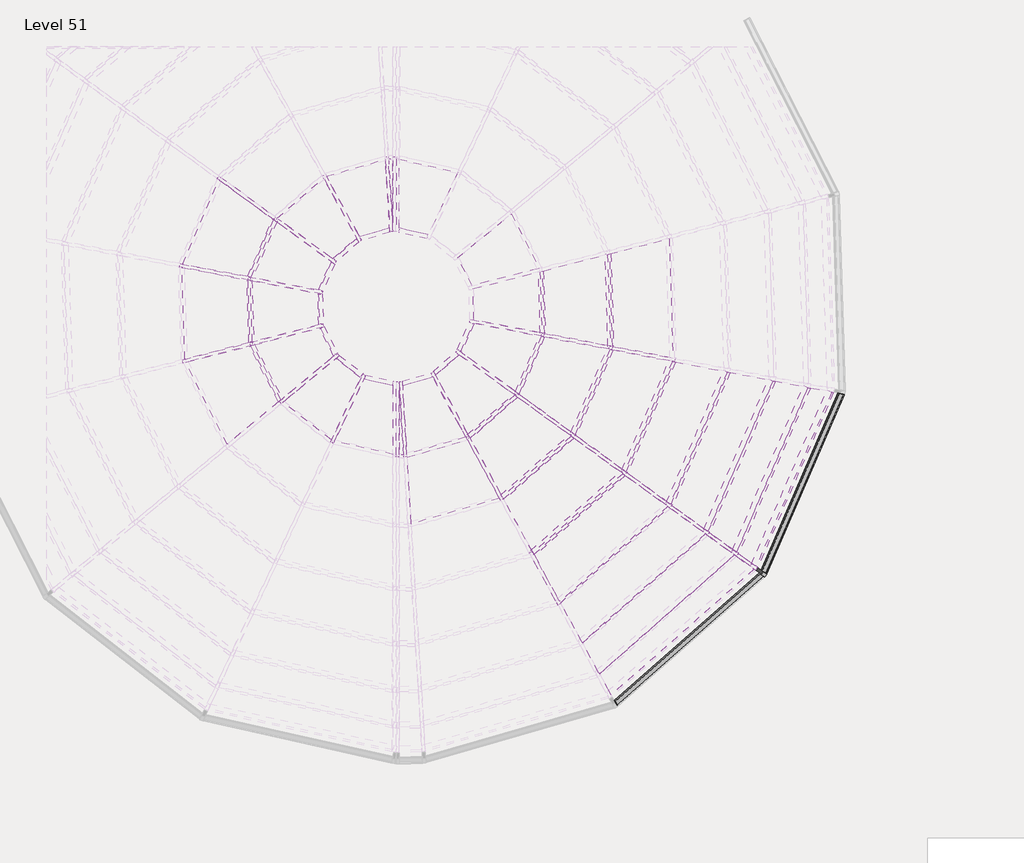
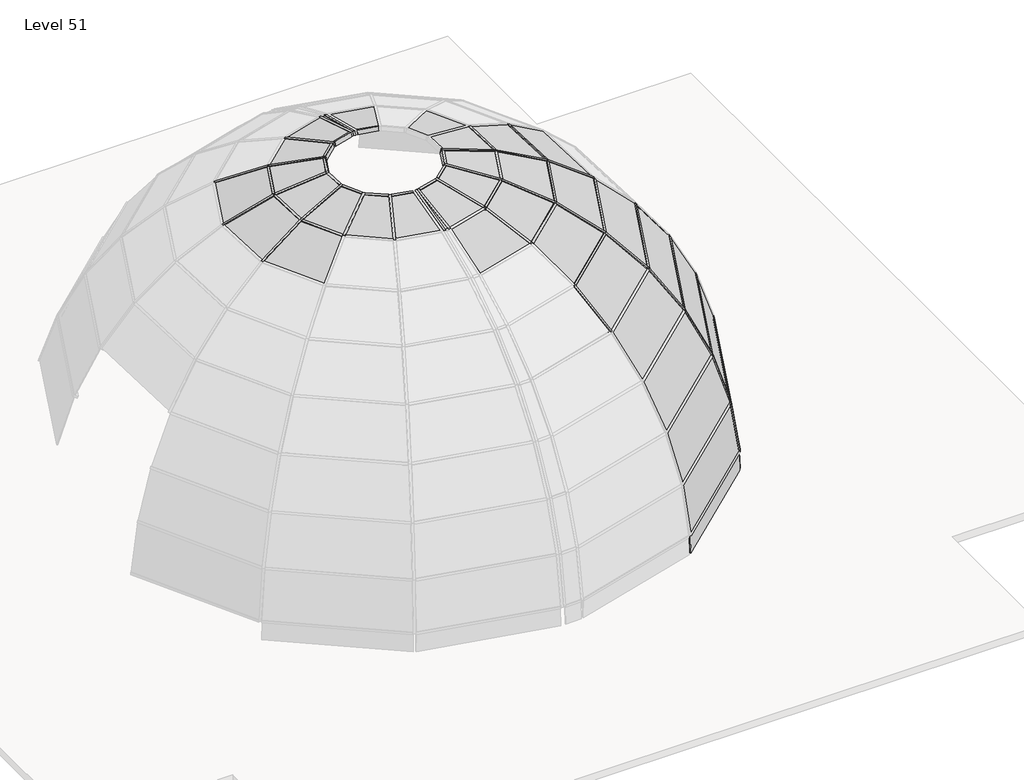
# One storey, part 3 of 5: 54 members, 37 plates.
"""IFC4 building model written with IfcOpenShell, lengths in millimetres."""

from ifc_helpers import new_model, si_unit, origin, place, context, project, spatial, transform, mapped, element, save
from components import member_1612663b, member_5eaec6db, member_d183bd50, member_bab2e2f0, member_4ad3c4be, member_d9f9b3f1, member_ae036e1e, member_bd7755a3, member_d21742c5, member_8f2bf440, member_043ce83e, member_92905304, member_01029f2d, member_8adeae2d, system_panel_glazed_a28302a5, system_panel_glazed_481fb3e2, system_panel_glazed_05ceb18a, system_panel_glazed_08e752b3, system_panel_glazed_7ce28d7e, system_panel_glazed_bc7ae3a6, system_panel_glazed_73e2dce4, system_panel_glazed_cf9631f2, system_panel_glazed_7f2b973a, system_panel_glazed_a149731e, system_panel_glazed_0cc4b934

model = new_model("IFC4")

# Units and contexts
model_context = context("Model", 3, world=origin())
ifc_project = project(units=[si_unit("LENGTHUNIT", "METRE", prefix="MILLI")], contexts=[model_context])

# Site, building, storey
site = spatial("IfcSite", under=ifc_project)
building = spatial("IfcBuilding", under=site)
storey = spatial("IfcBuildingStorey", under=building, Name="Level 51", Elevation=152400.0)

# Members
placement = place(None, origin())
member_shape = member_1612663b(model_context)
element("IfcMember", 1, ObjectType="Rectangular Mullion : 2.5\" x 5\" rectangular", at=placement, inside=storey, context=model_context, shape_type="MappedRepresentation", body=[
    mapped(member_shape, transform((611.2637185, -6933.1447382, 161037.7653816), x_axis=(-0.2482453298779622, 0.9686971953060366, 0.0), y_axis=(-0.39299494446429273, -0.10071171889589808, 0.9140088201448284), z_axis=(0.8853977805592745, 0.2268984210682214, 0.40569431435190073))),
])
element("IfcMember", 2, ObjectType="Rectangular Mullion : 2.5\" x 5\" rectangular", at=placement, inside=storey, context=model_context, shape_type="MappedRepresentation", body=[
    mapped(member_shape, transform((570.8341791, -5624.3347489, 161037.7653816), x_axis=(0.18798237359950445, 0.9821724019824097, 0.0), y_axis=(-0.3984617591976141, 0.07626338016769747, 0.9140088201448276), z_axis=(0.897714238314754, -0.17181754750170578, 0.4056943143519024))),
])
element("IfcMember", 3, ObjectType="Rectangular Mullion : 2.5\" x 5\" rectangular", at=placement, inside=storey, context=model_context, shape_type="MappedRepresentation", body=[
    mapped(member_shape, transform((1091.7004255, -4422.9536733, 161037.7653816), x_axis=(0.5884039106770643, 0.808567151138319, 0.0), y_axis=(-0.3280310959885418, 0.2387121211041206, 0.9140088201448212), z_axis=(0.7390375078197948, -0.5378063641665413, 0.4056943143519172))),
])
element("IfcMember", 4, ObjectType="Rectangular Mullion : 2.5\" x 5\" rectangular", at=placement, inside=storey, context=model_context, shape_type="MappedRepresentation", body=[
    mapped(member_shape, transform((6464.4399296, -6752.3383416, 161037.7653816), x_axis=(-0.1879823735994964, -0.9821724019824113, 0.0), y_axis=(0.3984617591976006, -0.07626338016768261, 0.914008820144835), z_axis=(-0.8977142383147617, 0.17181754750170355, 0.4056943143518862))),
])
element("IfcMember", 5, ObjectType="Rectangular Mullion : 2.5\" x 5\" rectangular", at=placement, inside=storey, context=model_context, shape_type="MappedRepresentation", body=[
    mapped(member_shape, transform((7832.5564288, -7014.188284, 160419.4872466), x_axis=(-0.18798237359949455, -0.9821724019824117, 0.0), y_axis=(0.5420261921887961, -0.10374081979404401, 0.8339337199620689), z_axis=(-0.8190666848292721, 0.15676484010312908, 0.5518646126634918))),
])
element("IfcMember", 6, ObjectType="Rectangular Mullion : 2.5\" x 5\" rectangular", at=placement, inside=storey, context=model_context, shape_type="MappedRepresentation", body=[
    mapped(member_shape, transform((5943.5736832, -7953.7194172, 161037.7653816), x_axis=(-0.5884039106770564, -0.8085671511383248, 0.0), y_axis=(0.3280310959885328, -0.23871212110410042, 0.9140088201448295), z_axis=(-0.7390375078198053, 0.5378063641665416, 0.4056943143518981))),
])
element("IfcMember", 7, ObjectType="Rectangular Mullion : 2.5\" x 5\" rectangular", at=placement, inside=storey, context=model_context, shape_type="MappedRepresentation", body=[
    mapped(member_shape, transform((7069.8668451, -8773.3363162, 160419.4872466), x_axis=(-0.588403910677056, -0.808567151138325, 0.0), y_axis=(0.4462195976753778, -0.32471929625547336, 0.8339337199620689), z_axis=(-0.6742914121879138, 0.4906898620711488, 0.5518646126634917))),
])
element("IfcMember", 8, ObjectType="Rectangular Mullion : 2.5\" x 5\" rectangular", at=placement, inside=storey, context=model_context, shape_type="MappedRepresentation", body=[
    mapped(member_shape, transform((8097.4869573, -9521.147666, 159578.4455769), x_axis=(-0.5884039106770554, -0.8085671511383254, 0.0), y_axis=(0.5520131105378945, -0.4017064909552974, 0.7306937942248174), z_axis=(-0.590814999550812, 0.42994308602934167, 0.6827053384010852))),
])
element("IfcMember", 9, ObjectType="Rectangular Mullion : 2.5\" x 5\" rectangular", at=placement, inside=storey, context=model_context, shape_type="MappedRepresentation", body=[
    mapped(member_shape, transform((8997.8890166, -10176.3809291, 158538.0026411), x_axis=(-0.588403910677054, -0.8085671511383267, 0.0), y_axis=(0.6424729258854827, -0.4675351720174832, 0.6071568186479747), z_axis=(-0.49092705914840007, 0.3572534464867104, 0.7945820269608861))),
])
element("IfcMember", 10, ObjectType="Rectangular Mullion : 2.5\" x 5\" rectangular", at=placement, inside=storey, context=model_context, shape_type="MappedRepresentation", body=[
    mapped(member_shape, transform((9746.0618547, -10720.8351816, 157327.0596321), x_axis=(-0.5884039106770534, -0.8085671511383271, 0.0), y_axis=(0.7150862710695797, -0.5203767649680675, 0.4667543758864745), z_axis=(-0.3774022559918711, 0.27464010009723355, 0.8843869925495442))),
])
element("IfcMember", 11, ObjectType="Rectangular Mullion : 2.5\" x 5\" rectangular", at=placement, inside=storey, context=model_context, shape_type="MappedRepresentation", body=[
    mapped(member_shape, transform((10321.2228929, -11139.3866941, 155979.2538554), x_axis=(-0.5884039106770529, -0.8085671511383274, 0.0), y_axis=(0.7678361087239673, -0.5587634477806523, 0.3133865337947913), z_axis=(-0.2533940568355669, 0.18439786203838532, 0.9496256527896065))),
])
element("IfcMember", 12, ObjectType="Rectangular Mullion : 2.5\" x 5\" rectangular", at=placement, inside=storey, context=model_context, shape_type="MappedRepresentation", body=[
    mapped(member_shape, transform((4960.6242694, -8818.8370887, 161037.7653816), x_axis=(-0.8767485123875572, -0.4809491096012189, 0.0), y_axis=(0.19511831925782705, -0.35569188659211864, 0.9140088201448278), z_axis=(-0.43959172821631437, 0.8013558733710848, 0.40569431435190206))),
])
element("IfcMember", 13, ObjectType="Rectangular Mullion : 2.5\" x 5\" rectangular", at=placement, inside=storey, context=model_context, shape_type="MappedRepresentation", body=[
    mapped(member_shape, transform((6241.8074956, -11154.3762659, 159578.4455769), x_axis=(-0.8767485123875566, -0.48094910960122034, 0.0), y_axis=(0.32834652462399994, -0.5985608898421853, 0.7306937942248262), z_axis=(-0.3514265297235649, 0.640634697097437, 0.6827053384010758))),
])
member_2_shape = member_5eaec6db(model_context)
element("IfcMember", 14, ObjectType="Rectangular Mullion : 2.5\" x 5\" rectangular", at=placement, inside=storey, context=model_context, shape_type="MappedRepresentation", body=[
    mapped(member_2_shape, transform((10707.3954355, -11420.4090359, 154532.0243606), x_axis=(-0.5884039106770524, -0.8085671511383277, 0.0), y_axis=(0.7992571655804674, -0.5816289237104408, 0.15131351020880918), z_axis=(-0.12234713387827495, 0.08903346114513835, 0.9884858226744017))),
])
member_3_shape = member_d183bd50(model_context)
element("IfcMember", 15, ObjectType="Rectangular Mullion : 2.5\" x 5\" rectangular", at=placement, inside=storey, context=model_context, shape_type="MappedRepresentation", body=[
    mapped(member_3_shape, transform((10906.4819699, -11526.9660089, 153025.5719668), x_axis=(0.06431051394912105, -0.027882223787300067, -0.9975403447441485), y_axis=(0.9152243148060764, -0.39680120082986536, 0.07009465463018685), z_axis=(-0.39777960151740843, -0.9174810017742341, 0.0))),
])
member_4_shape = member_bab2e2f0(model_context)
element("IfcMember", 16, ObjectType="Rectangular Mullion : 2.5\" x 5\" rectangular", at=placement, inside=storey, context=model_context, shape_type="MappedRepresentation", body=[
    mapped(member_4_shape, transform((10720.0249378, -11391.2790141, 154532.0243606), x_axis=(0.2189062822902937, -0.09490818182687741, -0.971119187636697), y_axis=(0.8909834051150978, -0.38629140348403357, 0.238594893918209), z_axis=(-0.39777960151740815, -0.917481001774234, 0.0))),
])
member_5_shape = member_4ad3c4be(model_context)
element("IfcMember", 17, ObjectType="Rectangular Mullion : 2.5\" x 5\" rectangular", at=placement, inside=storey, context=model_context, shape_type="MappedRepresentation", body=[
    mapped(member_5_shape, transform((9758.6913571, -10691.7051598, 157327.0596321), x_axis=(0.5029371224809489, -0.21805152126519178, -0.8363658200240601), y_axis=(0.7673497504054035, -0.33268926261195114, 0.5481717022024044), z_axis=(-0.3977796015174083, -0.917481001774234, 0.0))),
])
member_6_shape = member_d9f9b3f1(model_context)
element("IfcMember", 18, ObjectType="Rectangular Mullion : 2.5\" x 5\" rectangular", at=placement, inside=storey, context=model_context, shape_type="MappedRepresentation", body=[
    mapped(member_6_shape, transform((10333.8523952, -11110.2566723, 155979.2538554), x_axis=(0.3665985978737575, -0.15894110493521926, -0.9167023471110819), y_axis=(0.8410569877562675, -0.36464549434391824, 0.39957077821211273), z_axis=(-0.39777960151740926, -0.9174810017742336, 0.0))),
])
member_7_shape = member_ae036e1e(model_context)
element("IfcMember", 19, ObjectType="Rectangular Mullion : 2.5\" x 5\" rectangular", at=placement, inside=storey, context=model_context, shape_type="MappedRepresentation", body=[
    mapped(member_7_shape, transform((2843.4555089, -7547.7281328, 161416.1055894), x_axis=(0.59298255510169, 0.7641063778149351, 0.2539943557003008), y_axis=(-0.15572098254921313, -0.20065918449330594, 0.9672057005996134), z_axis=(0.7900143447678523, -0.6130883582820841, 0.0))),
])
element("IfcMember", 20, ObjectType="Rectangular Mullion : 2.5\" x 5\" rectangular", at=placement, inside=storey, context=model_context, shape_type="MappedRepresentation", body=[
    mapped(member_7_shape, transform((2328.6743232, -7131.1164073, 161416.1055894), x_axis=(0.8619544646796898, 0.43877256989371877, 0.253994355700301), y_axis=(-0.22635471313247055, -0.11522446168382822, 0.9672057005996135), z_axis=(0.4536496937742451, -0.8911800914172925, 0.0))),
])
element("IfcMember", 21, ObjectType="Rectangular Mullion : 2.5\" x 5\" rectangular", at=placement, inside=storey, context=model_context, shape_type="MappedRepresentation", body=[
    mapped(member_7_shape, transform((2040.3622291, -6534.9275653, 161416.1055894), x_axis=(0.9667445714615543, 0.02986303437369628, 0.2539943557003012), y_axis=(-0.2538732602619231, -0.007842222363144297, 0.9672057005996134), z_axis=(0.030875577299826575, -0.9995232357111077, 0.0))),
])
element("IfcMember", 22, ObjectType="Rectangular Mullion : 2.5\" x 5\" rectangular", at=placement, inside=storey, context=model_context, shape_type="MappedRepresentation", body=[
    mapped(member_7_shape, transform((2033.4358161, -5872.7213861, 161416.1055894), x_axis=(0.8873928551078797, -0.38473469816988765, 0.25399435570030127), y_axis=(-0.23303499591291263, 0.10103377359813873, 0.9672057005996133), z_axis=(-0.39777960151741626, -0.9174810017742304, 0.0))),
])
element("IfcMember", 23, ObjectType="Rectangular Mullion : 2.5\" x 5\" rectangular", at=placement, inside=storey, context=model_context, shape_type="MappedRepresentation", body=[
    mapped(member_7_shape, transform((2309.2144008, -5270.6323801, 161416.1055894), x_axis=(0.6390139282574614, -0.7260496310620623, 0.2539943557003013), y_axis=(-0.16780911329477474, 0.19066524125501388, 0.9672057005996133), z_axis=(-0.7506672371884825, -0.6606804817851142, 0.0))),
])
element("IfcMember", 24, ObjectType="Rectangular Mullion : 2.5\" x 5\" rectangular", at=placement, inside=storey, context=model_context, shape_type="MappedRepresentation", body=[
    mapped(member_7_shape, transform((2815.1687291, -4843.3441675, 161416.1055894), x_axis=(0.2689180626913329, -0.9290693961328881, 0.25399435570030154), y_axis=(-0.07061959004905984, 0.2439795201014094, 0.9672057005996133), z_axis=(-0.9605706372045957, -0.2780360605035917, 0.0))),
])
element("IfcMember", 25, ObjectType="Rectangular Mullion : 2.5\" x 5\" rectangular", at=placement, inside=storey, context=model_context, shape_type="MappedRepresentation", body=[
    mapped(member_7_shape, transform((5001.8382926, -6503.9517044, 161416.1055894), x_axis=(-0.8873928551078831, 0.3847346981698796, 0.2539943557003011), y_axis=(0.23303499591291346, -0.10103377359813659, 0.9672057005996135), z_axis=(0.397779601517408, 0.9174810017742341, 0.0))),
])
element("IfcMember", 26, ObjectType="Rectangular Mullion : 2.5\" x 5\" rectangular", at=placement, inside=storey, context=model_context, shape_type="MappedRepresentation", body=[
    mapped(member_7_shape, transform((4726.0597079, -7106.0407104, 161416.1055894), x_axis=(-0.6390139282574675, 0.7260496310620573, 0.253994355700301), y_axis=(0.16780911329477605, -0.19066524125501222, 0.9672057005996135), z_axis=(0.7506672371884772, 0.6606804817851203, 0.0))),
])
element("IfcMember", 27, ObjectType="Rectangular Mullion : 2.5\" x 5\" rectangular", at=placement, inside=storey, context=model_context, shape_type="MappedRepresentation", body=[
    mapped(member_7_shape, transform((4220.1053797, -7533.3289231, 161416.1055894), x_axis=(-0.26891806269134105, 0.9290693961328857, 0.2539943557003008), y_axis=(0.07061959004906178, -0.24397952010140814, 0.9672057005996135), z_axis=(0.9605706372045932, 0.2780360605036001, 0.0))),
])
member_8_shape = member_bd7755a3(model_context)
element("IfcMember", 28, ObjectType="Rectangular Mullion : 2.5\" x 5\" rectangular", at=placement, inside=storey, context=model_context, shape_type="MappedRepresentation", body=[
    mapped(member_8_shape, transform((8110.1164596, -9492.0176442, 159578.4455769), x_axis=(0.7269350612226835, -0.31516722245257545, -0.6101106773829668), y_axis=(0.5597649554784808, -0.24268958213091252, 0.7923162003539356), z_axis=(-0.3977796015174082, -0.917481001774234, 0.0))),
])
element("IfcMember", 29, ObjectType="Rectangular Mullion : 2.5\" x 5\" rectangular", at=placement, inside=storey, context=model_context, shape_type="MappedRepresentation", body=[
    mapped(member_8_shape, transform((6265.6411804, -11133.3996606, 159578.4455769), x_axis=(0.523467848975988, -0.5947658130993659, -0.6101106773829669), y_axis=(0.40308821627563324, -0.4579900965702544, 0.7923162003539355), z_axis=(-0.7506672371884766, -0.6606804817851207, 0.0))),
])
member_9_shape = member_d21742c5(model_context)
element("IfcMember", 30, ObjectType="Rectangular Mullion : 2.5\" x 5\" rectangular", at=placement, inside=storey, context=model_context, shape_type="MappedRepresentation", body=[
    mapped(member_9_shape, transform((5654.395748, -10019.1268344, 160419.4872466), x_axis=(0.582642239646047, -0.6619999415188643, -0.47147014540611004), y_axis=(0.31149112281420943, -0.35391719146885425, 0.8818820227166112), z_axis=(-0.750667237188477, -0.6606804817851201, 0.0))),
])
element("IfcMember", 31, ObjectType="Rectangular Mullion : 2.5\" x 5\" rectangular", at=placement, inside=storey, context=model_context, shape_type="MappedRepresentation", body=[
    mapped(member_9_shape, transform((7831.5761292, -6982.4534213, 160419.4872466), x_axis=(0.8814615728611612, 0.02722861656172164, -0.47147014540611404), y_axis=(0.47124536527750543, 0.014556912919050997, 0.881882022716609), z_axis=(0.03087557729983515, -0.9995232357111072, 0.0))),
])
element("IfcMember", 32, ObjectType="Rectangular Mullion : 2.5\" x 5\" rectangular", at=placement, inside=storey, context=model_context, shape_type="MappedRepresentation", body=[
    mapped(member_9_shape, transform((7082.4963475, -8744.2062944, 160419.4872466), x_axis=(0.8091100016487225, -0.3507946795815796, -0.4714701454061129), y_axis=(0.43256490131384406, -0.18754120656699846, 0.8818820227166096), z_axis=(-0.397779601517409, -0.9174810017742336, 0.0))),
])
member_10_shape = member_8f2bf440(model_context)
element("IfcMember", 33, ObjectType="Rectangular Mullion : 2.5\" x 5\" rectangular", at=placement, inside=storey, context=model_context, shape_type="MappedRepresentation", body=[
    mapped(member_10_shape, transform((625.6670963, -6961.4397061, 161037.7653816), x_axis=(-0.8440083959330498, -0.4296372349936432, -0.32103220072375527), y_axis=(-0.28609750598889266, -0.1456361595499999, 0.9470682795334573), z_axis=(-0.4536496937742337, 0.8911800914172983, 0.0))),
])
element("IfcMember", 34, ObjectType="Rectangular Mullion : 2.5\" x 5\" rectangular", at=placement, inside=storey, context=model_context, shape_type="MappedRepresentation", body=[
    mapped(member_10_shape, transform((1079.0709232, -4452.0836951, 161037.7653816), x_axis=(-0.8689171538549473, 0.3767244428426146, -0.3210322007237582), y_axis=(-0.2945409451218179, 0.1277000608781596, 0.9470682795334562), z_axis=(0.39777960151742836, 0.9174810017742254, 0.0))),
])
element("IfcMember", 35, ObjectType="Rectangular Mullion : 2.5\" x 5\" rectangular", at=placement, inside=storey, context=model_context, shape_type="MappedRepresentation", body=[
    mapped(member_10_shape, transform((571.8144787, -5656.0696117, 161037.7653816), x_axis=(-0.9466167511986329, -0.029241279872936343, -0.32103220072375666), y_axis=(-0.32087914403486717, -0.009912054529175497, 0.9470682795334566), z_axis=(-0.030875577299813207, 0.9995232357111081, 0.0))),
])
element("IfcMember", 36, ObjectType="Rectangular Mullion : 2.5\" x 5\" rectangular", at=placement, inside=storey, context=model_context, shape_type="MappedRepresentation", body=[
    mapped(member_10_shape, transform((6463.45963, -6720.6034789, 161037.7653816), x_axis=(0.946616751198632, 0.02924127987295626, -0.3210322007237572), y_axis=(0.32087914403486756, 0.009912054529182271, 0.9470682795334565), z_axis=(0.03087557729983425, -0.9995232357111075, 0.0))),
])
element("IfcMember", 37, ObjectType="Rectangular Mullion : 2.5\" x 5\" rectangular", at=placement, inside=storey, context=model_context, shape_type="MappedRepresentation", body=[
    mapped(member_10_shape, transform((5956.2031855, -7924.5893954, 161037.7653816), x_axis=(0.868917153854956, -0.3767244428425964, -0.3210322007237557), y_axis=(0.29454094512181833, -0.12770006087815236, 0.9470682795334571), z_axis=(-0.39777960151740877, -0.9174810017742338, 0.0))),
])
element("IfcMember", 38, ObjectType="Rectangular Mullion : 2.5\" x 5\" rectangular", at=placement, inside=storey, context=model_context, shape_type="MappedRepresentation", body=[
    mapped(member_10_shape, transform((4984.4579542, -8797.8604834, 161037.7653816), x_axis=(0.6257095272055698, -0.7109331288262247, -0.3210322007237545), y_axis=(0.21209970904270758, -0.24098835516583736, 0.9470682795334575), z_axis=(-0.7506672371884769, -0.6606804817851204, 0.0))),
])
member_11_shape = member_043ce83e(model_context)
element("IfcMember", 39, ObjectType="Rectangular Mullion : 2.5\" x 5\" rectangular", at=placement, inside=storey, context=model_context, shape_type="MappedRepresentation", body=[
    mapped(member_11_shape, transform((2784.6706113, -4852.1718124, 161416.1055894), x_axis=(0.8767485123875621, 0.4809491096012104, 0.0), y_axis=(-0.11939789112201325, 0.21765696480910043, 0.9686947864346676), z_axis=(0.4658928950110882, -0.8493017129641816, 0.24825472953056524))),
])
element("IfcMember", 40, ObjectType="Rectangular Mullion : 2.5\" x 5\" rectangular", at=placement, inside=storey, context=model_context, shape_type="MappedRepresentation", body=[
    mapped(member_11_shape, transform((3423.5731625, -4667.2422076, 161416.1055894), x_axis=(0.9980933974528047, 0.06172171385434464, 0.0), y_axis=(-0.015322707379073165, 0.24778140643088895, 0.9686947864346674), z_axis=(0.05978950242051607, -0.9668478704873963, 0.2482547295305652))),
])
element("IfcMember", 41, ObjectType="Rectangular Mullion : 2.5\" x 5\" rectangular", at=placement, inside=storey, context=model_context, shape_type="MappedRepresentation", body=[
    mapped(member_11_shape, transform((2868.5384643, -7567.1936881, 161416.1055894), x_axis=(-0.9047619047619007, 0.42591770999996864, 0.0), y_axis=(-0.105736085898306, -0.2246114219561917, 0.9686947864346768), z_axis=(0.4125842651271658, 0.8764381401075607, 0.2482547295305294))),
])
element("IfcMember", 42, ObjectType="Rectangular Mullion : 2.5\" x 5\" rectangular", at=placement, inside=storey, context=model_context, shape_type="MappedRepresentation", body=[
    mapped(member_11_shape, transform((2343.077701, -7159.4113752, 161416.1055894), x_axis=(-0.637188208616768, 0.7707082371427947, 0.0), y_axis=(-0.1913319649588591, -0.15818498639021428, 0.9686947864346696), z_axis=(0.7465810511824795, 0.6172408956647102, 0.24825472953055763))),
])
element("IfcMember", 43, ObjectType="Rectangular Mullion : 2.5\" x 5\" rectangular", at=placement, inside=storey, context=model_context, shape_type="MappedRepresentation", body=[
    mapped(member_11_shape, transform((2041.3425287, -6566.662428, 161416.1055894), x_axis=(-0.24824532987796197, 0.9686971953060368, 0.0), y_axis=(-0.24048366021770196, -0.06162807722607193, 0.9686947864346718), z_axis=(0.9383719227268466, 0.24047395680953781, 0.2482547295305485))),
])
element("IfcMember", 44, ObjectType="Rectangular Mullion : 2.5\" x 5\" rectangular", at=placement, inside=storey, context=model_context, shape_type="MappedRepresentation", body=[
    mapped(member_11_shape, transform((2020.8063137, -5901.8514079, 161416.1055894), x_axis=(0.18798237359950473, 0.9821724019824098, 0.0), y_axis=(-0.24382894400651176, 0.046667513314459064, 0.9686947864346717), z_axis=(0.951425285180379, -0.182097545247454, 0.24825472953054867))),
])
element("IfcMember", 45, ObjectType="Rectangular Mullion : 2.5\" x 5\" rectangular", at=placement, inside=storey, context=model_context, shape_type="MappedRepresentation", body=[
    mapped(member_11_shape, transform((2285.380716, -5291.6089854, 161416.1055894), x_axis=(0.5884039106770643, 0.808567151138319, 0.0), y_axis=(-0.2007306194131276, 0.14607405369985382, 0.9686947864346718), z_axis=(0.7832547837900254, -0.5699838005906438, 0.24825472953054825))),
])
element("IfcMember", 46, ObjectType="Rectangular Mullion : 2.5\" x 5\" rectangular", at=placement, inside=storey, context=model_context, shape_type="MappedRepresentation", body=[
    mapped(member_11_shape, transform((5014.467795, -6474.8216826, 161416.1055894), x_axis=(-0.18798237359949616, -0.9821724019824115, 0.0), y_axis=(0.2438289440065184, -0.04666751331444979, 0.9686947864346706), z_axis=(-0.9514252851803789, 0.1820975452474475, 0.2482547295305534))),
])
element("IfcMember", 47, ObjectType="Rectangular Mullion : 2.5\" x 5\" rectangular", at=placement, inside=storey, context=model_context, shape_type="MappedRepresentation", body=[
    mapped(member_11_shape, transform((4749.8933927, -7085.0641051, 161416.1055894), x_axis=(-0.588403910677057, -0.8085671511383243, 0.0), y_axis=(0.2007306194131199, -0.14607405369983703, 0.968694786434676), z_axis=(-0.7832547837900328, 0.5699838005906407, 0.24825472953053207))),
])
element("IfcMember", 48, ObjectType="Rectangular Mullion : 2.5\" x 5\" rectangular", at=placement, inside=storey, context=model_context, shape_type="MappedRepresentation", body=[
    mapped(member_11_shape, transform((4250.6034974, -7524.5012781, 161416.1055894), x_axis=(-0.876748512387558, -0.48094910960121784, 0.0), y_axis=(0.11939789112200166, -0.21765696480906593, 0.9686947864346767), z_axis=(-0.4658928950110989, 0.8493017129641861, 0.2482547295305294))),
])
element("IfcMember", 49, ObjectType="Rectangular Mullion : 2.5\" x 5\" rectangular", at=placement, inside=storey, context=model_context, shape_type="MappedRepresentation", body=[
    mapped(member_11_shape, transform((3611.7009463, -7709.430883, 161416.1055894), x_axis=(-0.9980933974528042, -0.06172171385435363, 0.0), y_axis=(0.015322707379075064, -0.24778140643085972, 0.9686947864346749), z_axis=(-0.059789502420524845, 0.9668478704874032, 0.24825472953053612))),
])
member_12_shape = member_92905304(model_context)
element("IfcMember", 50, ObjectType="Rectangular Mullion : 2.5\" x 5\" rectangular", at=placement, inside=storey, context=model_context, shape_type="MappedRepresentation", body=[
    mapped(member_12_shape, transform((3455.6673997, -7698.4797092, 161416.1055894), x_axis=(0.21106158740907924, 0.9438961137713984, 0.2539943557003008), y_axis=(-0.05542611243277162, -0.2478731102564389, 0.9672057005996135), z_axis=(0.9759000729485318, -0.21821789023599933, 0.0))),
])
element("IfcMember", 51, ObjectType="Rectangular Mullion : 2.5\" x 5\" rectangular", at=placement, inside=storey, context=model_context, shape_type="MappedRepresentation", body=[
    mapped(member_12_shape, transform((3579.606709, -4678.1933813, 161416.1055894), x_axis=(-0.21106158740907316, -0.9438961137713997, 0.25399435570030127), y_axis=(0.05542611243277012, 0.24787311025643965, 0.9672057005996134), z_axis=(-0.9759000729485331, 0.21821789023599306, 0.0))),
])
member_13_shape = member_01029f2d(model_context)
element("IfcMember", 52, ObjectType="Rectangular Mullion : 2.5\" x 5\" rectangular", at=placement, inside=storey, context=model_context, shape_type="MappedRepresentation", body=[
    mapped(member_13_shape, transform((9010.518519, -10147.2509073, 158538.0026411), x_axis=(0.6240863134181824, -0.2705765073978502, -0.7330106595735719), y_axis=(0.6725233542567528, -0.29157668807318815, 0.6802171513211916), z_axis=(-0.3977796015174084, -0.9174810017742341, 0.0))),
])
member_14_shape = member_8adeae2d(model_context)
element("IfcMember", 53, ObjectType="Rectangular Mullion : 2.5\" x 5\" rectangular", at=placement, inside=storey, context=model_context, shape_type="MappedRepresentation", body=[
    mapped(member_14_shape, transform((3517.6370544, -4664.3365453, 161416.1055894), x_axis=(0.9999705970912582, 0.0019037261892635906, 0.0074283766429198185), y_axis=(-0.00766843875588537, 0.24824743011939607, 0.9686663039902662), z_axis=(0.0, -0.9686947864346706, 0.24825472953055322))),
])
element("IfcMember", 54, ObjectType="Rectangular Mullion : 2.5\" x 5\" rectangular", at=placement, inside=storey, context=model_context, shape_type="MappedRepresentation", body=[
    mapped(member_14_shape, transform((3517.6370544, -7712.3365453, 161416.1055894), x_axis=(-0.9999705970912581, -0.0019037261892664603, 0.007428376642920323), y_axis=(0.0076684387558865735, -0.24824743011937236, 0.9686663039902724), z_axis=(0.0, 0.9686947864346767, 0.24825472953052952))),
])

# Plates
system_panel_glazed_shape = system_panel_glazed_a28302a5(model_context)
element("IfcPlate", 55, ObjectType="System Panel : Glazed", at=placement, inside=storey, context=model_context, shape_type="MappedRepresentation", body=[
    mapped(system_panel_glazed_shape, transform((3163.8347517, -7696.1582187, 161399.9769479), x_axis=(-0.9759000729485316, 0.2182178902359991, 0.0), y_axis=(0.05542611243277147, 0.2478731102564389, -0.9672057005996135), z_axis=(-0.2110615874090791, -0.9438961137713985, -0.2539943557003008))),
])
element("IfcPlate", 56, ObjectType="System Panel : Glazed", at=placement, inside=storey, context=model_context, shape_type="MappedRepresentation", body=[
    mapped(system_panel_glazed_shape, transform((3871.439357, -4680.5148718, 161399.9769479), x_axis=(0.9759000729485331, -0.2182178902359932, 0.0), y_axis=(-0.055426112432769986, -0.24787311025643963, -0.9672057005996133), z_axis=(0.21106158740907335, 0.9438961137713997, -0.25399435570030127))),
])
system_panel_glazed_2_shape = system_panel_glazed_481fb3e2(model_context)
element("IfcPlate", 57, ObjectType="System Panel : Glazed", at=placement, inside=storey, context=model_context, shape_type="MappedRepresentation", body=[
    mapped(system_panel_glazed_2_shape, transform((2568.1536904, -7411.8232867, 161399.9769479), x_axis=(-0.790014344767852, 0.6130883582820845, 0.0), y_axis=(0.15572098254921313, 0.20065918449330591, -0.9672057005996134), z_axis=(-0.5929825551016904, -0.7641063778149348, -0.2539943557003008))),
])
element("IfcPlate", 58, ObjectType="System Panel : Glazed", at=placement, inside=storey, context=model_context, shape_type="MappedRepresentation", body=[
    mapped(system_panel_glazed_2_shape, transform((2137.4760063, -6890.8989598, 161399.9769479), x_axis=(-0.4536496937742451, 0.8911800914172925, 0.0), y_axis=(0.22635471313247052, 0.11522446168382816, -0.9672057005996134), z_axis=(-0.86195446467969, -0.4387725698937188, -0.253994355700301))),
])
element("IfcPlate", 59, ObjectType="System Panel : Glazed", at=placement, inside=storey, context=model_context, shape_type="MappedRepresentation", body=[
    mapped(system_panel_glazed_2_shape, transform((1969.6861409, -6236.1532206, 161399.9769479), x_axis=(-0.030875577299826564, 0.9995232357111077, 0.0), y_axis=(0.25387326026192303, 0.007842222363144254, -0.9672057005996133), z_axis=(-0.9667445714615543, -0.02986303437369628, -0.2539943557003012))),
])
element("IfcPlate", 60, ObjectType="System Panel : Glazed", at=placement, inside=storey, context=model_context, shape_type="MappedRepresentation", body=[
    mapped(system_panel_glazed_2_shape, transform((2096.7440686, -5572.2995433, 161399.9769479), x_axis=(0.3977796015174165, 0.9174810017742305, 0.0), y_axis=(0.23303499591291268, -0.1010337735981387, -0.9672057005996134), z_axis=(-0.8873928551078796, 0.38473469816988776, -0.25399435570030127))),
])
element("IfcPlate", 61, ObjectType="System Panel : Glazed", at=placement, inside=storey, context=model_context, shape_type="MappedRepresentation", body=[
    mapped(system_panel_glazed_2_shape, transform((2494.4482792, -5025.7862473, 161399.9769479), x_axis=(0.7506672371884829, 0.6606804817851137, 0.0), y_axis=(0.16780911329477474, -0.19066524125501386, -0.9672057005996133), z_axis=(-0.639013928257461, 0.7260496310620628, -0.2539943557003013))),
])
element("IfcPlate", 62, ObjectType="System Panel : Glazed", at=placement, inside=storey, context=model_context, shape_type="MappedRepresentation", body=[
    mapped(system_panel_glazed_2_shape, transform((3087.0455899, -4700.7111033, 161399.9769479), x_axis=(0.9605706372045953, 0.27803606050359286, 0.0), y_axis=(0.07061959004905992, -0.2439795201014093, -0.9672057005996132), z_axis=(-0.2689180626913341, 0.9290693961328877, -0.2539943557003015))),
])
element("IfcPlate", 63, ObjectType="System Panel : Glazed", at=placement, inside=storey, context=model_context, shape_type="MappedRepresentation", body=[
    mapped(system_panel_glazed_2_shape, transform((4897.7981024, -5485.7741307, 161399.9769479), x_axis=(0.4536496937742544, -0.8911800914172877, 0.0), y_axis=(-0.22635471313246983, -0.11522446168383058, -0.9672057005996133), z_axis=(0.8619544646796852, 0.4387725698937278, -0.25399435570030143))),
])
element("IfcPlate", 64, ObjectType="System Panel : Glazed", at=placement, inside=storey, context=model_context, shape_type="MappedRepresentation", body=[
    mapped(system_panel_glazed_2_shape, transform((5065.5879678, -6140.5198699, 161399.9769479), x_axis=(0.030875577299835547, -0.9995232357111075, 0.0), y_axis=(-0.25387326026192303, -0.007842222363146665, -0.9672057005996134), z_axis=(0.966744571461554, 0.029863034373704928, -0.2539943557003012))),
])
element("IfcPlate", 65, ObjectType="System Panel : Glazed", at=placement, inside=storey, context=model_context, shape_type="MappedRepresentation", body=[
    mapped(system_panel_glazed_2_shape, transform((4938.5300401, -6804.3735472, 161399.9769479), x_axis=(-0.39777960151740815, -0.9174810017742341, 0.0), y_axis=(-0.23303499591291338, 0.10103377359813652, -0.9672057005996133), z_axis=(0.8873928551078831, -0.38473469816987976, -0.2539943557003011))),
])
element("IfcPlate", 66, ObjectType="System Panel : Glazed", at=placement, inside=storey, context=model_context, shape_type="MappedRepresentation", body=[
    mapped(system_panel_glazed_2_shape, transform((4540.8258295, -7350.8868432, 161399.9769479), x_axis=(-0.7506672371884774, -0.6606804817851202, 0.0), y_axis=(-0.1678091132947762, 0.19066524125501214, -0.9672057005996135), z_axis=(0.6390139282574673, -0.7260496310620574, -0.253994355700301))),
])
element("IfcPlate", 67, ObjectType="System Panel : Glazed", at=placement, inside=storey, context=model_context, shape_type="MappedRepresentation", body=[
    mapped(system_panel_glazed_2_shape, transform((3948.2285188, -7675.9619872, 161399.9769479), x_axis=(-0.960570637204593, -0.2780360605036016, 0.0), y_axis=(-0.07061959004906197, 0.24397952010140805, -0.9672057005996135), z_axis=(0.2689180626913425, -0.9290693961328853, -0.2539943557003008))),
])
system_panel_glazed_3_shape = system_panel_glazed_05ceb18a(model_context)
element("IfcPlate", 68, ObjectType="System Panel : Glazed", at=placement, inside=storey, context=model_context, shape_type="MappedRepresentation", body=[
    mapped(system_panel_glazed_3_shape, transform((882.5198599, -7529.7265964, 161024.6204715), x_axis=(-0.45364969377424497, 0.8911800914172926, 0.0), y_axis=(0.368960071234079, 0.18781683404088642, -0.9102710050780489), z_axis=(-0.8112153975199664, -0.41294416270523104, -0.4140129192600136))),
])
element("IfcPlate", 69, ObjectType="System Panel : Glazed", at=placement, inside=storey, context=model_context, shape_type="MappedRepresentation", body=[
    mapped(system_panel_glazed_3_shape, transform((562.1616234, -6279.6320818, 161024.6204715), x_axis=(-0.030875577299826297, 0.9995232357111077, 0.0), y_axis=(0.41381553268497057, 0.01278288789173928, -0.910271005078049), z_axis=(-0.9098370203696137, -0.028105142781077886, -0.4140129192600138))),
])
element("IfcPlate", 70, ObjectType="System Panel : Glazed", at=placement, inside=storey, context=model_context, shape_type="MappedRepresentation", body=[
    mapped(system_panel_glazed_3_shape, transform((804.7510881, -5012.1479413, 161024.6204715), x_axis=(0.39777960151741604, 0.9174810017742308, 0.0), y_axis=(0.3798489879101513, -0.16468589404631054, -0.9102710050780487), z_axis=(-0.835156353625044, 0.362087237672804, -0.41401291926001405))),
])
element("IfcPlate", 71, ObjectType="System Panel : Glazed", at=placement, inside=storey, context=model_context, shape_type="MappedRepresentation", body=[
    mapped(system_panel_glazed_3_shape, transform((6473.1124853, -6097.0410087, 161024.6204715), x_axis=(0.030875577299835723, -0.9995232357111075, 0.0), y_axis=(-0.41381553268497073, -0.012782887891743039, -0.9102710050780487), z_axis=(0.9098370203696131, 0.02810514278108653, -0.41401291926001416))),
])
element("IfcPlate", 72, ObjectType="System Panel : Glazed", at=placement, inside=storey, context=model_context, shape_type="MappedRepresentation", body=[
    mapped(system_panel_glazed_3_shape, transform((6230.5230206, -7364.5251492, 161024.6204715), x_axis=(-0.39777960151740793, -0.9174810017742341, 0.0), y_axis=(-0.3798489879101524, 0.1646858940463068, -0.9102710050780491), z_axis=(0.8351563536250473, -0.3620872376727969, -0.4140129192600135))),
])
element("IfcPlate", 73, ObjectType="System Panel : Glazed", at=placement, inside=storey, context=model_context, shape_type="MappedRepresentation", body=[
    mapped(system_panel_glazed_3_shape, transform((5471.1933719, -8407.9733652, 161024.6204715), x_axis=(-0.7506672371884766, -0.6606804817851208, 0.0), y_axis=(-0.27353025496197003, 0.31078593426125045, -0.9102710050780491), z_axis=(0.6013982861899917, -0.6833106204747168, -0.4140129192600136))),
])
element("IfcPlate", 74, ObjectType="System Panel : Glazed", at=placement, inside=storey, context=model_context, shape_type="MappedRepresentation", body=[
    mapped(system_panel_glazed_3_shape, transform((4339.7577579, -9028.6336154, 161024.6204715), x_axis=(-0.9605706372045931, -0.27803606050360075, 0.0), y_axis=(-0.1151105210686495, 0.39768865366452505, -0.910271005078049), z_axis=(0.2530881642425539, -0.874379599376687, -0.4140129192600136))),
])
system_panel_glazed_4_shape = system_panel_glazed_08e752b3(model_context)
element("IfcPlate", 75, ObjectType="System Panel : Glazed", at=placement, inside=storey, context=model_context, shape_type="MappedRepresentation", body=[
    mapped(system_panel_glazed_4_shape, transform((7829.2220637, -6055.1503706, 160401.668006), x_axis=(0.0308755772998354, -0.9995232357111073, 0.0), y_axis=(-0.5609683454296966, -0.017328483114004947, -0.8276558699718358), z_axis=(0.8272612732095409, 0.025554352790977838, -0.561235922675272))),
])
element("IfcPlate", 76, ObjectType="System Panel : Glazed", at=placement, inside=storey, context=model_context, shape_type="MappedRepresentation", body=[
    mapped(system_panel_glazed_4_shape, transform((7475.3212705, -7904.2151819, 160401.668006), x_axis=(-0.3977796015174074, -0.9174810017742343, 0.0), y_axis=(-0.5149232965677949, 0.22324820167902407, -0.8276558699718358), z_axis=(0.7593585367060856, -0.32922462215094, -0.5612359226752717))),
])
element("IfcPlate", 77, ObjectType="System Panel : Glazed", at=placement, inside=storey, context=model_context, shape_type="MappedRepresentation", body=[
    mapped(system_panel_glazed_4_shape, transform((6367.5758647, -9426.4459671, 160401.668006), x_axis=(-0.7506672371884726, -0.6606804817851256, 0.0), y_axis=(-0.3707976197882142, 0.42130141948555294, -0.8276558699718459), z_axis=(0.5468160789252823, -0.6212941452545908, -0.5612359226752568))),
])
system_panel_glazed_5_shape = system_panel_glazed_7ce28d7e(model_context)
element("IfcPlate", 78, ObjectType="System Panel : Glazed", at=placement, inside=storey, context=model_context, shape_type="MappedRepresentation", body=[
    mapped(system_panel_glazed_5_shape, transform((8610.1918677, -8396.2453962, 159556.4887654), x_axis=(-0.3977796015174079, -0.9174810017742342, 0.0), y_axis=(-0.6344868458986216, 0.2750857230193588, -0.7223256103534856), z_axis=(0.6627200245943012, -0.28732639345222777, -0.6915531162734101))),
])
element("IfcPlate", 79, ObjectType="System Panel : Glazed", at=placement, inside=storey, context=model_context, shape_type="MappedRepresentation", body=[
    mapped(system_panel_glazed_5_shape, transform((7184.7991657, -10354.9776469, 159556.4887654), x_axis=(-0.7506672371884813, -0.6606804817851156, 0.0), y_axis=(-0.45689564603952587, 0.5191262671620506, -0.7223256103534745), z_axis=(0.4772264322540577, -0.5422261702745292, -0.6915531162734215))),
])
system_panel_glazed_6_shape = system_panel_glazed_bc7ae3a6(model_context)
element("IfcPlate", 80, ObjectType="System Panel : Glazed", at=placement, inside=storey, context=model_context, shape_type="MappedRepresentation", body=[
    mapped(system_panel_glazed_6_shape, transform((9603.6277709, -8826.9557182, 158512.550274), x_axis=(-0.3977796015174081, -0.9174810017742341, 0.0), y_axis=(-0.7354980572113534, 0.3188797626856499, -0.5977945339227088), z_axis=(0.5484651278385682, -0.23779047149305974, -0.8016493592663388))),
])
element("IfcPlate", 81, ObjectType="System Panel : Glazed", at=placement, inside=storey, context=model_context, shape_type="MappedRepresentation", body=[
    mapped(system_panel_glazed_6_shape, transform((7900.1749718, -11167.7898832, 158512.550274), x_axis=(-0.7506672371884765, -0.6606804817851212, 0.0), y_axis=(-0.5296340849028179, 0.6017719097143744, -0.5977945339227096), z_axis=(0.3949511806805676, -0.4487447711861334, -0.8016493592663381))),
])
system_panel_glazed_7_shape = system_panel_glazed_73e2dce4(model_context)
element("IfcPlate", 82, ObjectType="System Panel : Glazed", at=placement, inside=storey, context=model_context, shape_type="MappedRepresentation", body=[
    mapped(system_panel_glazed_7_shape, transform((10428.0441741, -9184.3865835, 157298.8335509), x_axis=(-0.39777960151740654, -0.9174810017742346, 0.0), y_axis=(-0.8156501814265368, 0.3536302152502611, -0.45788694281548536), z_axis=(0.42010257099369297, -0.18213808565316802, -0.889010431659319))),
])
element("IfcPlate", 83, ObjectType="System Panel : Glazed", at=placement, inside=storey, context=model_context, shape_type="MappedRepresentation", body=[
    mapped(system_panel_glazed_7_shape, transform((8493.8393914, -11842.3132602, 157298.8335509), x_axis=(-0.7506672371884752, -0.6606804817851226, 0.0), y_axis=(-0.587351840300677, 0.6673510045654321, -0.4578869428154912), z_axis=(0.3025169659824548, -0.34372072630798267, -0.8890104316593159))),
])
system_panel_glazed_8_shape = system_panel_glazed_cf9631f2(model_context)
element("IfcPlate", 84, ObjectType="System Panel : Glazed", at=placement, inside=storey, context=model_context, shape_type="MappedRepresentation", body=[
    mapped(system_panel_glazed_8_shape, transform((11060.5424407, -9458.6101455, 155949.0324897), x_axis=(-0.397779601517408, -0.9174810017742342, 0.0), y_axis=(-0.873307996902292, 0.3786281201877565, -0.3065516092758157), z_axis=(0.28125527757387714, -0.12193997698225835, -0.9518540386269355))),
])
element("IfcPlate", 85, ObjectType="System Panel : Glazed", at=placement, inside=storey, context=model_context, shape_type="MappedRepresentation", body=[
    mapped(system_panel_glazed_8_shape, transform((8949.3030562, -12359.8125058, 155949.0324897), x_axis=(-0.7506672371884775, -0.6606804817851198, 0.0), y_axis=(-0.6288713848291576, 0.7145256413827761, -0.30655160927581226), z_axis=(0.20253266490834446, -0.23011824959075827, -0.9518540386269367))),
])
system_panel_glazed_9_shape = system_panel_glazed_7f2b973a(model_context)
element("IfcPlate", 86, ObjectType="System Panel : Glazed", at=placement, inside=storey, context=model_context, shape_type="MappedRepresentation", body=[
    mapped(system_panel_glazed_9_shape, transform((11483.5460415, -9642.0059907, 154500.6228129), x_axis=(-0.39777960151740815, -0.9174810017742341, 0.0), y_axis=(-0.9074117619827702, 0.3934140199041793, -0.14774743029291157), z_axis=(0.13555546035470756, -0.05877091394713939, -0.9890251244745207))),
])
element("IfcPlate", 87, ObjectType="System Panel : Glazed", at=placement, inside=storey, context=model_context, shape_type="MappedRepresentation", body=[
    mapped(system_panel_glazed_9_shape, transform((9253.9090614, -12705.9068051, 154500.6228129), x_axis=(-0.7506672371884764, -0.6606804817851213, 0.0), y_axis=(-0.6534295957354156, 0.7424287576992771, -0.14774743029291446), z_axis=(0.09761384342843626, -0.11090915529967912, -0.9890251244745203))),
])
system_panel_glazed_10_shape = system_panel_glazed_a149731e(model_context)
element("IfcPlate", 88, ObjectType="System Panel : Glazed", at=placement, inside=storey, context=model_context, shape_type="MappedRepresentation", body=[
    mapped(system_panel_glazed_10_shape, transform((11686.6890532, -9730.0799084, 152993.8396842), x_axis=(-0.3977796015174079, -0.9174810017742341, 0.0), y_axis=(-0.9169690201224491, 0.397557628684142, -0.033402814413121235), z_axis=(0.03064644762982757, -0.013286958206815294, -0.9994419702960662))),
])
element("IfcPlate", 89, ObjectType="System Panel : Glazed", at=placement, inside=storey, context=model_context, shape_type="MappedRepresentation", body=[
    mapped(system_panel_glazed_10_shape, transform((9400.1928782, -12872.1149369, 152993.8396842), x_axis=(-0.7506672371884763, -0.6606804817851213, 0.0), y_axis=(-0.6603118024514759, 0.7502483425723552, -0.033402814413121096), z_axis=(0.022068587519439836, -0.025074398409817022, -0.9994419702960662))),
])
system_panel_glazed_11_shape = system_panel_glazed_0cc4b934(model_context)
element("IfcPlate", 90, ObjectType="System Panel : Glazed", at=placement, inside=storey, context=model_context, shape_type="MappedRepresentation", body=[
    mapped(system_panel_glazed_11_shape, transform((3454.1389215, -4647.1263661, 161411.1923244), x_axis=(0.9995232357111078, 0.030875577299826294, 0.0), y_axis=(0.007668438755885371, -0.2482474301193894, -0.968666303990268), z_axis=(-0.0299081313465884, 0.968204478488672, -0.24836584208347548))),
])
element("IfcPlate", 91, ObjectType="System Panel : Glazed", at=placement, inside=storey, context=model_context, shape_type="MappedRepresentation", body=[
    mapped(system_panel_glazed_11_shape, transform((3581.1351873, -7729.5467245, 161411.1923244), x_axis=(-0.9995232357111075, -0.030875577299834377, 0.0), y_axis=(-0.007668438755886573, 0.24824743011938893, -0.968666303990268), z_axis=(0.02990813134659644, -0.9682044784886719, -0.2483658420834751))),
])

save(model, "model.ifc")
